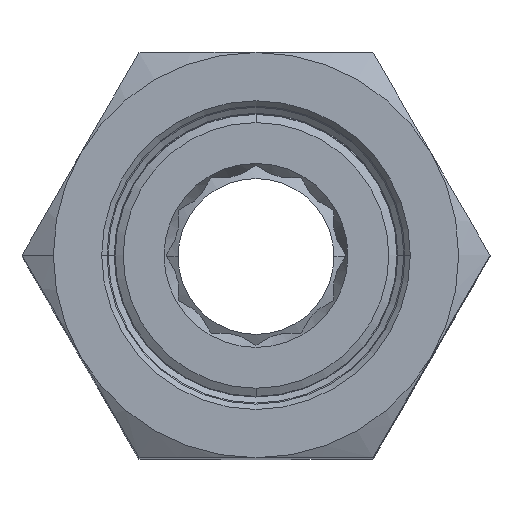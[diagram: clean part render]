
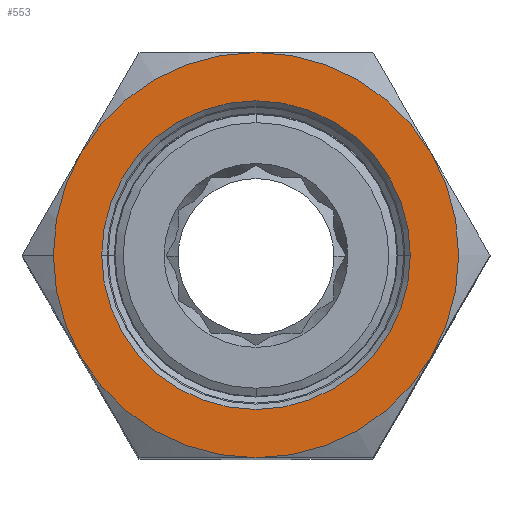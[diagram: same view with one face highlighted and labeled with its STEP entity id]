
A CAD part, top view. The second image highlights one B-rep face of the part: STEP entity #553.
In plain terms, the highlighted planar face has unit normal (0, 0, 1).
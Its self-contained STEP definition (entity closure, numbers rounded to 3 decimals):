
#553 = ADVANCED_FACE ( 'NONE', ( #16745, #16375 ), #3526, .T. ) ;
#915 = CIRCLE ( 'NONE', #15707, 32.5 ) ;
#1136 = CIRCLE ( 'NONE', #16354, 24.75 ) ;
#1321 = CARTESIAN_POINT ( 'NONE',  ( 0., 0., 79.5 ) ) ;
#1519 = CARTESIAN_POINT ( 'NONE',  ( 0., 0., 79.5 ) ) ;
#1962 = EDGE_CURVE ( 'NONE', #14375, #4304, #10666, .T. ) ;
#2055 = CIRCLE ( 'NONE', #15365, 32.5 ) ;
#2626 = DIRECTION ( 'NONE',  ( 1., 0., 0. ) ) ;
#2815 = DIRECTION ( 'NONE',  ( 1., 0., 0. ) ) ;
#3449 = DIRECTION ( 'NONE',  ( 1., 0., 0. ) ) ;
#3485 = DIRECTION ( 'NONE',  ( 0., 0., -1. ) ) ;
#3504 = CARTESIAN_POINT ( 'NONE',  ( 0., 0., 79.5 ) ) ;
#3526 = PLANE ( 'NONE',  #13910 ) ;
#3796 = VERTEX_POINT ( 'NONE', #9772 ) ;
#4014 = CARTESIAN_POINT ( 'NONE',  ( 24.75, 0., 79.5 ) ) ;
#4016 = CARTESIAN_POINT ( 'NONE',  ( 0., 0., 79.5 ) ) ;
#4304 = VERTEX_POINT ( 'NONE', #12591 ) ;
#4419 = ORIENTED_EDGE ( 'NONE', *, *, #16743, .F. ) ;
#4814 = CARTESIAN_POINT ( 'NONE',  ( 0., -32.5, 79.5 ) ) ;
#5349 = DIRECTION ( 'NONE',  ( 1., 0., 0. ) ) ;
#5350 = EDGE_CURVE ( 'NONE', #13000, #3796, #1136, .T. ) ;
#5716 = CARTESIAN_POINT ( 'NONE',  ( 0., 0., 79.5 ) ) ;
#5724 = VERTEX_POINT ( 'NONE', #4814 ) ;
#5865 = EDGE_CURVE ( 'NONE', #5724, #9637, #15747, .T. ) ;
#6091 = DIRECTION ( 'NONE',  ( 0., 0., -1. ) ) ;
#6368 = VERTEX_POINT ( 'NONE', #14916 ) ;
#6492 = CARTESIAN_POINT ( 'NONE',  ( -28.146, -16.25, 79.5 ) ) ;
#6794 = CARTESIAN_POINT ( 'NONE',  ( 28.146, -16.25, 79.5 ) ) ;
#7020 = DIRECTION ( 'NONE',  ( 1., 0., 0. ) ) ;
#7136 = ORIENTED_EDGE ( 'NONE', *, *, #5350, .T. ) ;
#7160 = EDGE_CURVE ( 'NONE', #13246, #14375, #13459, .T. ) ;
#7711 = AXIS2_PLACEMENT_3D ( 'NONE', #14652, #14584, #14530 ) ;
#7929 = ORIENTED_EDGE ( 'NONE', *, *, #11595, .T. ) ;
#8216 = AXIS2_PLACEMENT_3D ( 'NONE', #4016, #13164, #5349 ) ;
#8352 = DIRECTION ( 'NONE',  ( -1., 0., 0. ) ) ;
#8393 = DIRECTION ( 'NONE',  ( 0., 0., -1. ) ) ;
#8412 = CARTESIAN_POINT ( 'NONE',  ( 0., 0., 79.5 ) ) ;
#8474 = VERTEX_POINT ( 'NONE', #6794 ) ;
#9453 = ORIENTED_EDGE ( 'NONE', *, *, #1962, .F. ) ;
#9478 = AXIS2_PLACEMENT_3D ( 'NONE', #5716, #14792, #7020 ) ;
#9637 = VERTEX_POINT ( 'NONE', #6492 ) ;
#9772 = CARTESIAN_POINT ( 'NONE',  ( -24.75, 0., 79.5 ) ) ;
#10489 = DIRECTION ( 'NONE',  ( 0., 0., -1. ) ) ;
#10666 = CIRCLE ( 'NONE', #10675, 32.5 ) ;
#10675 = AXIS2_PLACEMENT_3D ( 'NONE', #8412, #8393, #8352 ) ;
#10681 = DIRECTION ( 'NONE',  ( 0., 0., -1. ) ) ;
#10754 = EDGE_CURVE ( 'NONE', #8474, #5724, #915, .T. ) ;
#11354 = EDGE_LOOP ( 'NONE', ( #14575, #4419, #16045, #9453, #14545, #14246, #14281 ) ) ;
#11595 = EDGE_CURVE ( 'NONE', #3796, #13000, #15220, .T. ) ;
#12591 = CARTESIAN_POINT ( 'NONE',  ( 0., 32.5, 79.5 ) ) ;
#13000 = VERTEX_POINT ( 'NONE', #4014 ) ;
#13079 = CARTESIAN_POINT ( 'NONE',  ( -28.146, 16.25, 79.5 ) ) ;
#13119 = EDGE_CURVE ( 'NONE', #9637, #13246, #14906, .T. ) ;
#13164 = DIRECTION ( 'NONE',  ( 0., 0., -1. ) ) ;
#13188 = AXIS2_PLACEMENT_3D ( 'NONE', #3504, #3485, #3449 ) ;
#13206 = EDGE_LOOP ( 'NONE', ( #7136, #7929 ) ) ;
#13246 = VERTEX_POINT ( 'NONE', #16663 ) ;
#13459 = CIRCLE ( 'NONE', #13188, 32.5 ) ;
#13524 = DIRECTION ( 'NONE',  ( 1., 0., 0. ) ) ;
#13558 = DIRECTION ( 'NONE',  ( 0., 0., 1. ) ) ;
#13631 = CARTESIAN_POINT ( 'NONE',  ( -37.528, 0., 79.5 ) ) ;
#13883 = CARTESIAN_POINT ( 'NONE',  ( 0., 0., 79.5 ) ) ;
#13910 = AXIS2_PLACEMENT_3D ( 'NONE', #13631, #13558, #13524 ) ;
#14103 = EDGE_CURVE ( 'NONE', #4304, #6368, #16271, .T. ) ;
#14246 = ORIENTED_EDGE ( 'NONE', *, *, #13119, .F. ) ;
#14281 = ORIENTED_EDGE ( 'NONE', *, *, #5865, .F. ) ;
#14346 = DIRECTION ( 'NONE',  ( 0., 0., -1. ) ) ;
#14375 = VERTEX_POINT ( 'NONE', #13079 ) ;
#14530 = DIRECTION ( 'NONE',  ( 1., 0., 0. ) ) ;
#14545 = ORIENTED_EDGE ( 'NONE', *, *, #7160, .F. ) ;
#14575 = ORIENTED_EDGE ( 'NONE', *, *, #10754, .F. ) ;
#14584 = DIRECTION ( 'NONE',  ( 0., 0., -1. ) ) ;
#14652 = CARTESIAN_POINT ( 'NONE',  ( 0., 0., 79.5 ) ) ;
#14792 = DIRECTION ( 'NONE',  ( 0., 0., -1. ) ) ;
#14906 = CIRCLE ( 'NONE', #9478, 32.5 ) ;
#14916 = CARTESIAN_POINT ( 'NONE',  ( 28.146, 16.25, 79.5 ) ) ;
#15195 = DIRECTION ( 'NONE',  ( 1., 0., 0. ) ) ;
#15220 = CIRCLE ( 'NONE', #8216, 24.75 ) ;
#15365 = AXIS2_PLACEMENT_3D ( 'NONE', #13883, #6091, #15195 ) ;
#15707 = AXIS2_PLACEMENT_3D ( 'NONE', #1321, #10489, #2626 ) ;
#15747 = CIRCLE ( 'NONE', #7711, 32.5 ) ;
#15922 = CARTESIAN_POINT ( 'NONE',  ( 0., 0., 79.5 ) ) ;
#16045 = ORIENTED_EDGE ( 'NONE', *, *, #14103, .F. ) ;
#16254 = AXIS2_PLACEMENT_3D ( 'NONE', #1519, #10681, #2815 ) ;
#16271 = CIRCLE ( 'NONE', #16254, 32.5 ) ;
#16354 = AXIS2_PLACEMENT_3D ( 'NONE', #15922, #14346, #16597 ) ;
#16375 = FACE_OUTER_BOUND ( 'NONE', #11354, .T. ) ;
#16597 = DIRECTION ( 'NONE',  ( 1., 0., 0. ) ) ;
#16663 = CARTESIAN_POINT ( 'NONE',  ( -32.5, 0., 79.5 ) ) ;
#16743 = EDGE_CURVE ( 'NONE', #6368, #8474, #2055, .T. ) ;
#16745 = FACE_BOUND ( 'NONE', #13206, .T. ) ;
